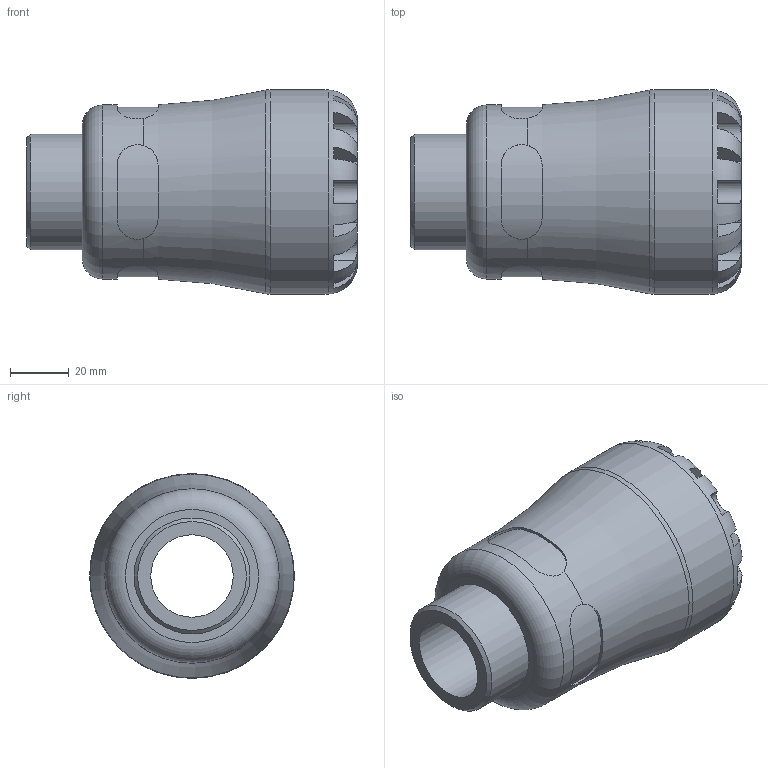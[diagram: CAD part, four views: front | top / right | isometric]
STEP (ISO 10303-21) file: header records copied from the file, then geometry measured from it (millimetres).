
FILE_DESCRIPTION(/* description */ ('PLASSON MALE INTEGRAL BRASS THREAD 40X1.1/4" SERIES 1'),/* implementation_level */ '2;1');
FILE_NAME(/* name */ 'C:\Dropbox\KIMPROJECTS-Inventor\99-16-3568-Processing\1072\107200040013_197200040013.ipt.stp',/* time_stamp */ '2017-01-22T10:49:01+02:00',/* author */ ('KIM'),/* organization */ (''),/* preprocessor_version */ 'ST-DEVELOPER v15.6',/* originating_system */ 'Autodesk Inventor 2015',/* authorisation */ '');
FILE_SCHEMA (('AUTOMOTIVE_DESIGN { 1 0 10303 214 3 1 1 }'));
Length unit declared in the file: millimetre
Products named in the file (1): 107200040013_197200040013
Bounding box: 113 x 70 x 70 mm (x, y, z)
Volume: 202988.1 mm3; surface area: 40045.5 mm2
Topology: 1 solids, 1 shells, 99 faces, 255 edges, 160 vertices
Faces by surface type: plane 60, cylinder 33, torus 4, cone 2
Full cylindrical faces by diameter (mm): 28.163 x1, 39.592 x1, 40 x1, 59.5 x1, 70 x1
Entity records: 3859 total; most frequent: CARTESIAN_POINT 1458, ORIENTED_EDGE 482, DIRECTION 458, EDGE_CURVE 241, AXIS2_PLACEMENT_3D 189, VERTEX_POINT 157, EDGE_LOOP 114, STYLED_ITEM 100
